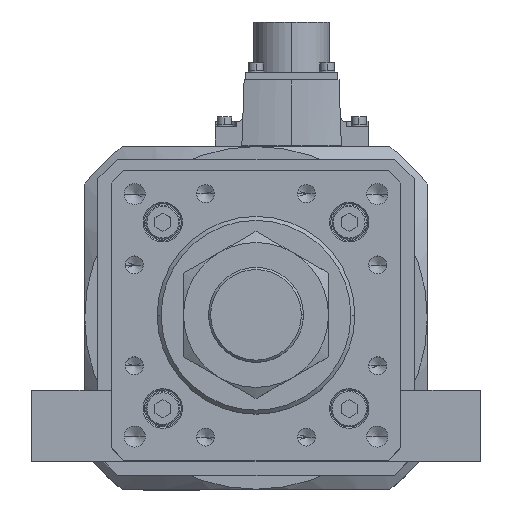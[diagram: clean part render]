
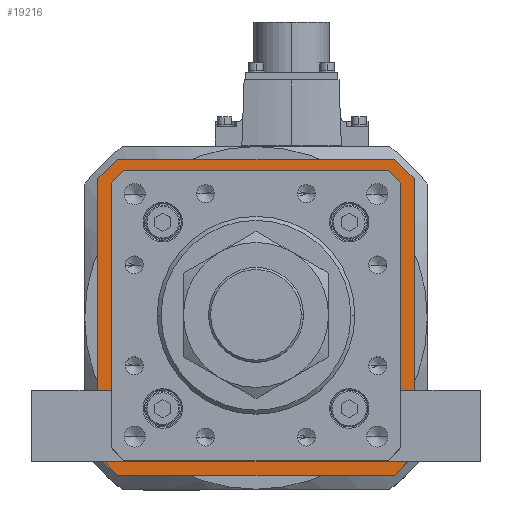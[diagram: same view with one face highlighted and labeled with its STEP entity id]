
A CAD part, top view. The second image highlights one B-rep face of the part: STEP entity #19216.
In plain terms, the highlighted planar face has unit normal (0, 0, 1).
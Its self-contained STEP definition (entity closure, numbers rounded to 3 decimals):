
#166 = ORIENTED_EDGE ( 'NONE', *, *, #26511, .F. ) ;
#483 = VECTOR ( 'NONE', #947, 1000. ) ;
#876 = VERTEX_POINT ( 'NONE', #23641 ) ;
#947 = DIRECTION ( 'NONE',  ( 0., -1., 0. ) ) ;
#1243 = VERTEX_POINT ( 'NONE', #22325 ) ;
#1381 = CARTESIAN_POINT ( 'NONE',  ( -53.5, 49.8, -119. ) ) ;
#1462 = CARTESIAN_POINT ( 'NONE',  ( -49.593, -53.5, -119. ) ) ;
#1947 = VECTOR ( 'NONE', #37753, 1000. ) ;
#2470 = CARTESIAN_POINT ( 'NONE',  ( -52.5, -60., -119. ) ) ;
#2879 = LINE ( 'NONE', #17124, #1947 ) ;
#3054 = CARTESIAN_POINT ( 'NONE',  ( 60., -52.5, -119. ) ) ;
#3572 = VECTOR ( 'NONE', #4190, 1000. ) ;
#4062 = CARTESIAN_POINT ( 'NONE',  ( 60., 52.5, -119. ) ) ;
#4190 = DIRECTION ( 'NONE',  ( 0., -1., 0. ) ) ;
#4335 = VERTEX_POINT ( 'NONE', #4761 ) ;
#4345 = CARTESIAN_POINT ( 'NONE',  ( 49.446, -53.646, -119. ) ) ;
#4428 = CARTESIAN_POINT ( 'NONE',  ( 0., 0., -119. ) ) ;
#4566 = PLANE ( 'NONE',  #35445 ) ;
#4624 = VERTEX_POINT ( 'NONE', #18559 ) ;
#4657 = CARTESIAN_POINT ( 'NONE',  ( -60., 52.5, -119. ) ) ;
#4761 = CARTESIAN_POINT ( 'NONE',  ( 53.5, -49.593, -119. ) ) ;
#4815 = CARTESIAN_POINT ( 'NONE',  ( 52.5, 60., -119. ) ) ;
#4932 = VECTOR ( 'NONE', #31255, 1000. ) ;
#5982 = VECTOR ( 'NONE', #25678, 1000. ) ;
#6842 = VERTEX_POINT ( 'NONE', #38104 ) ;
#7482 = EDGE_CURVE ( 'NONE', #38351, #7810, #7763, .T. ) ;
#7763 = LINE ( 'NONE', #3054, #38236 ) ;
#7810 = VERTEX_POINT ( 'NONE', #29173 ) ;
#7961 = CARTESIAN_POINT ( 'NONE',  ( 60., -52.5, -119. ) ) ;
#8780 = VECTOR ( 'NONE', #32550, 1000. ) ;
#8879 = EDGE_CURVE ( 'NONE', #9353, #6842, #26208, .T. ) ;
#9353 = VERTEX_POINT ( 'NONE', #28076 ) ;
#10407 = DIRECTION ( 'NONE',  ( 1., 0., 0. ) ) ;
#11524 = CARTESIAN_POINT ( 'NONE',  ( -52.5, -60., -119. ) ) ;
#11640 = LINE ( 'NONE', #18489, #29195 ) ;
#11707 = FACE_BOUND ( 'NONE', #26292, .T. ) ;
#12160 = CARTESIAN_POINT ( 'NONE',  ( -49.8, -53.5, -119. ) ) ;
#12974 = ORIENTED_EDGE ( 'NONE', *, *, #28045, .F. ) ;
#13513 = VERTEX_POINT ( 'NONE', #27220 ) ;
#13533 = DIRECTION ( 'NONE',  ( 0., 0., 1. ) ) ;
#13786 = EDGE_CURVE ( 'NONE', #18747, #21594, #2879, .T. ) ;
#14536 = EDGE_CURVE ( 'NONE', #22761, #21211, #11640, .T. ) ;
#14776 = ORIENTED_EDGE ( 'NONE', *, *, #34222, .T. ) ;
#15162 = ORIENTED_EDGE ( 'NONE', *, *, #7482, .F. ) ;
#15637 = LINE ( 'NONE', #34439, #16550 ) ;
#15953 = EDGE_CURVE ( 'NONE', #7810, #30040, #20786, .T. ) ;
#16550 = VECTOR ( 'NONE', #37418, 1000. ) ;
#17094 = EDGE_CURVE ( 'NONE', #1243, #876, #26183, .T. ) ;
#17124 = CARTESIAN_POINT ( 'NONE',  ( 52.5, 60., -119. ) ) ;
#17379 = VECTOR ( 'NONE', #23029, 1000. ) ;
#18341 = LINE ( 'NONE', #1381, #24374 ) ;
#18489 = CARTESIAN_POINT ( 'NONE',  ( -53.646, -49.446, -119. ) ) ;
#18559 = CARTESIAN_POINT ( 'NONE',  ( 49.593, -53.5, -119. ) ) ;
#18747 = VERTEX_POINT ( 'NONE', #22729 ) ;
#18854 = ORIENTED_EDGE ( 'NONE', *, *, #33051, .T. ) ;
#18906 = ORIENTED_EDGE ( 'NONE', *, *, #32845, .T. ) ;
#19093 = DIRECTION ( 'NONE',  ( -0.707, -0.707, 0. ) ) ;
#19216 = ADVANCED_FACE ( 'NONE', ( #11707, #33412 ), #4566, .T. ) ;
#19790 = LINE ( 'NONE', #21906, #3572 ) ;
#19973 = ORIENTED_EDGE ( 'NONE', *, *, #14536, .T. ) ;
#20024 = CARTESIAN_POINT ( 'NONE',  ( 53.646, 49.446, -119. ) ) ;
#20040 = CARTESIAN_POINT ( 'NONE',  ( -49.446, 53.646, -119. ) ) ;
#20221 = VECTOR ( 'NONE', #33104, 1000. ) ;
#20752 = ORIENTED_EDGE ( 'NONE', *, *, #13786, .F. ) ;
#20786 = LINE ( 'NONE', #34694, #5982 ) ;
#21211 = VERTEX_POINT ( 'NONE', #29673 ) ;
#21316 = CARTESIAN_POINT ( 'NONE',  ( 53.5, 49.593, -119. ) ) ;
#21594 = VERTEX_POINT ( 'NONE', #4815 ) ;
#21693 = DIRECTION ( 'NONE',  ( 0.707, 0.707, 0. ) ) ;
#21906 = CARTESIAN_POINT ( 'NONE',  ( 53.5, -49.8, -119. ) ) ;
#22188 = EDGE_CURVE ( 'NONE', #37707, #37647, #30434, .T. ) ;
#22325 = CARTESIAN_POINT ( 'NONE',  ( -53.5, 49.593, -119. ) ) ;
#22511 = LINE ( 'NONE', #27285, #20221 ) ;
#22729 = CARTESIAN_POINT ( 'NONE',  ( -52.5, 60., -119. ) ) ;
#22761 = VERTEX_POINT ( 'NONE', #1462 ) ;
#22991 = EDGE_CURVE ( 'NONE', #876, #37707, #22511, .T. ) ;
#23029 = DIRECTION ( 'NONE',  ( 0.707, 0.707, 0. ) ) ;
#23350 = ORIENTED_EDGE ( 'NONE', *, *, #22188, .T. ) ;
#23427 = ORIENTED_EDGE ( 'NONE', *, *, #17094, .T. ) ;
#23641 = CARTESIAN_POINT ( 'NONE',  ( -49.593, 53.5, -119. ) ) ;
#23665 = ORIENTED_EDGE ( 'NONE', *, *, #26986, .T. ) ;
#24011 = LINE ( 'NONE', #4345, #31844 ) ;
#24374 = VECTOR ( 'NONE', #27768, 1000. ) ;
#24558 = LINE ( 'NONE', #4062, #483 ) ;
#24960 = LINE ( 'NONE', #12160, #8780 ) ;
#25085 = EDGE_CURVE ( 'NONE', #30040, #9353, #27306, .T. ) ;
#25196 = EDGE_CURVE ( 'NONE', #13513, #38351, #24558, .T. ) ;
#25678 = DIRECTION ( 'NONE',  ( -1., 0., 0. ) ) ;
#26181 = VECTOR ( 'NONE', #21693, 1000. ) ;
#26183 = LINE ( 'NONE', #20040, #17379 ) ;
#26208 = LINE ( 'NONE', #4657, #4932 ) ;
#26292 = EDGE_LOOP ( 'NONE', ( #29125, #23350, #23665, #18854, #18906, #19973, #14776, #23427 ) ) ;
#26488 = DIRECTION ( 'NONE',  ( -0.707, -0.707, 0. ) ) ;
#26511 = EDGE_CURVE ( 'NONE', #21594, #13513, #15637, .T. ) ;
#26986 = EDGE_CURVE ( 'NONE', #37647, #4335, #19790, .T. ) ;
#27139 = DIRECTION ( 'NONE',  ( -0.707, 0.707, 0. ) ) ;
#27220 = CARTESIAN_POINT ( 'NONE',  ( 60., 52.5, -119. ) ) ;
#27285 = CARTESIAN_POINT ( 'NONE',  ( 49.8, 53.5, -119. ) ) ;
#27306 = LINE ( 'NONE', #11524, #31956 ) ;
#27358 = CARTESIAN_POINT ( 'NONE',  ( -52.5, 60., -119. ) ) ;
#27768 = DIRECTION ( 'NONE',  ( 0., 1., 0. ) ) ;
#28045 = EDGE_CURVE ( 'NONE', #6842, #18747, #34012, .T. ) ;
#28076 = CARTESIAN_POINT ( 'NONE',  ( -60., -52.5, -119. ) ) ;
#29040 = VECTOR ( 'NONE', #31254, 1000. ) ;
#29125 = ORIENTED_EDGE ( 'NONE', *, *, #22991, .T. ) ;
#29173 = CARTESIAN_POINT ( 'NONE',  ( 52.5, -60., -119. ) ) ;
#29195 = VECTOR ( 'NONE', #27139, 1000. ) ;
#29469 = ORIENTED_EDGE ( 'NONE', *, *, #15953, .F. ) ;
#29673 = CARTESIAN_POINT ( 'NONE',  ( -53.5, -49.593, -119. ) ) ;
#30040 = VERTEX_POINT ( 'NONE', #2470 ) ;
#30206 = CARTESIAN_POINT ( 'NONE',  ( 49.593, 53.5, -119. ) ) ;
#30434 = LINE ( 'NONE', #20024, #29040 ) ;
#30979 = ORIENTED_EDGE ( 'NONE', *, *, #8879, .F. ) ;
#31254 = DIRECTION ( 'NONE',  ( 0.707, -0.707, 0. ) ) ;
#31255 = DIRECTION ( 'NONE',  ( 0., 1., 0. ) ) ;
#31844 = VECTOR ( 'NONE', #19093, 1000. ) ;
#31956 = VECTOR ( 'NONE', #34481, 1000. ) ;
#32550 = DIRECTION ( 'NONE',  ( -1., 0., 0. ) ) ;
#32810 = EDGE_LOOP ( 'NONE', ( #20752, #12974, #30979, #38264, #29469, #15162, #33505, #166 ) ) ;
#32845 = EDGE_CURVE ( 'NONE', #4624, #22761, #24960, .T. ) ;
#33051 = EDGE_CURVE ( 'NONE', #4335, #4624, #24011, .T. ) ;
#33104 = DIRECTION ( 'NONE',  ( 1., 0., 0. ) ) ;
#33412 = FACE_OUTER_BOUND ( 'NONE', #32810, .T. ) ;
#33505 = ORIENTED_EDGE ( 'NONE', *, *, #25196, .F. ) ;
#34012 = LINE ( 'NONE', #27358, #26181 ) ;
#34222 = EDGE_CURVE ( 'NONE', #21211, #1243, #18341, .T. ) ;
#34439 = CARTESIAN_POINT ( 'NONE',  ( 60., 52.5, -119. ) ) ;
#34481 = DIRECTION ( 'NONE',  ( -0.707, 0.707, 0. ) ) ;
#34694 = CARTESIAN_POINT ( 'NONE',  ( 52.5, -60., -119. ) ) ;
#35445 = AXIS2_PLACEMENT_3D ( 'NONE', #4428, #13533, #10407 ) ;
#37418 = DIRECTION ( 'NONE',  ( 0.707, -0.707, 0. ) ) ;
#37647 = VERTEX_POINT ( 'NONE', #21316 ) ;
#37707 = VERTEX_POINT ( 'NONE', #30206 ) ;
#37753 = DIRECTION ( 'NONE',  ( 1., 0., 0. ) ) ;
#38104 = CARTESIAN_POINT ( 'NONE',  ( -60., 52.5, -119. ) ) ;
#38236 = VECTOR ( 'NONE', #26488, 1000. ) ;
#38264 = ORIENTED_EDGE ( 'NONE', *, *, #25085, .F. ) ;
#38351 = VERTEX_POINT ( 'NONE', #7961 ) ;
